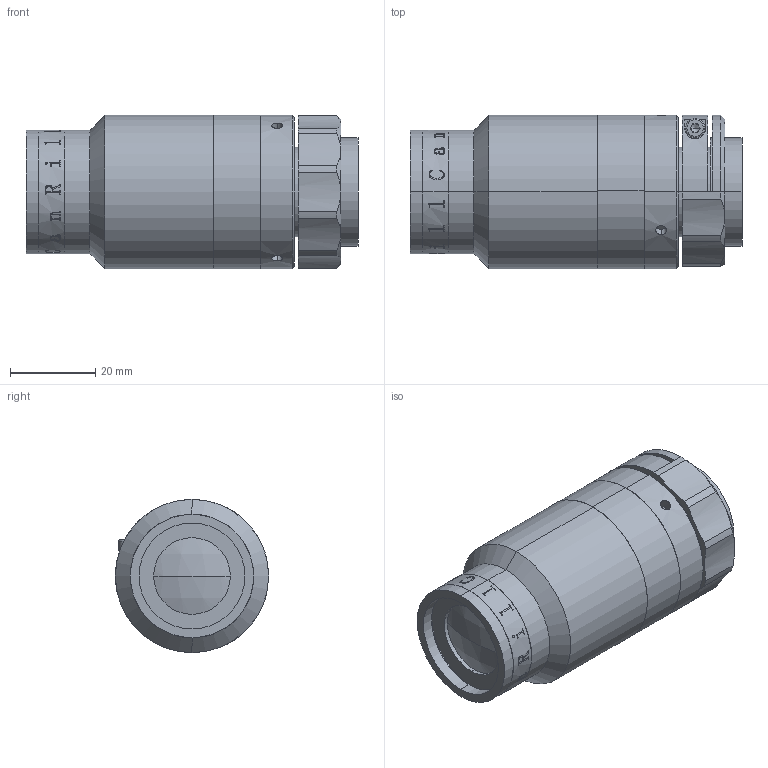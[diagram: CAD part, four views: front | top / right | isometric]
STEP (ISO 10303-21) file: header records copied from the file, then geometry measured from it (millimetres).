
FILE_DESCRIPTION (( 'STEP AP203' ), '1' );
FILE_NAME ('XF-MH015X444.STEP', '2020-04-10T07:20:13', ( 'canrill005' ), ( '' ), 'SwSTEP 2.0', 'SolidWorks 2014', '' );
FILE_SCHEMA (( 'CONFIG_CONTROL_DESIGN' ));
Length unit declared in the file: millimetre
Products named in the file (1): XF-MH015X444
Bounding box: 78 x 36 x 36 mm (x, y, z)
Surface area: 14520.2 mm2 (no closed solid volume)
Topology: 0 solids, 15 shells, 156 faces, 884 edges, 730 vertices
Faces by surface type: cylinder 67, plane 52, bspline 18, cone 15, sphere 2, torus 2
Entity records: 16273 total; most frequent: CARTESIAN_POINT 10022, ORIENTED_EDGE 1147, DIRECTION 1117, EDGE_CURVE 882, VERTEX_POINT 730, AXIS2_PLACEMENT_3D 431, B_SPLINE_CURVE_WITH_KNOTS 335, CIRCLE 292
